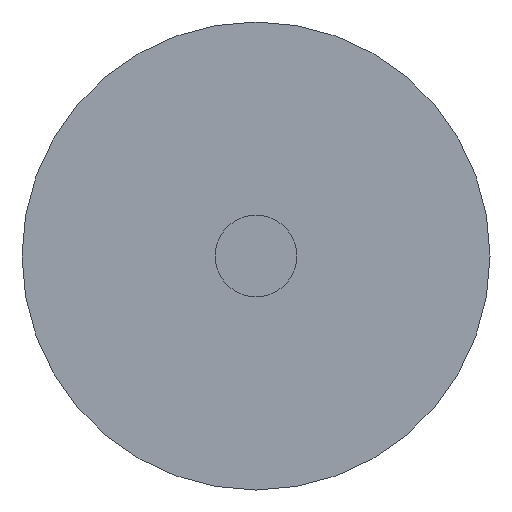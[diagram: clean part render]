
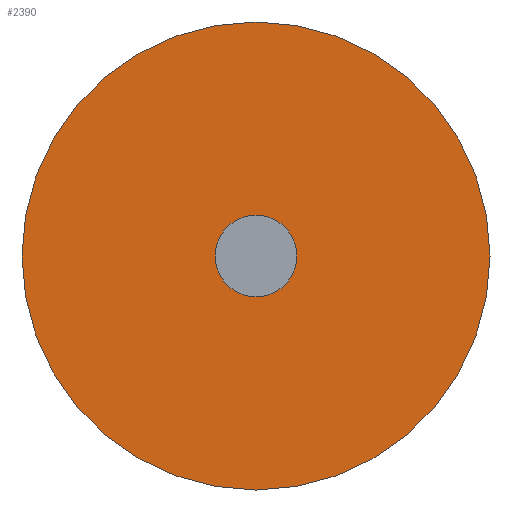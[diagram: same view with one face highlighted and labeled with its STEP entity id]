
A CAD part, left-side view. The second image highlights one B-rep face of the part: STEP entity #2390.
In plain terms, the highlighted planar face has unit normal (-1, 0, 0).
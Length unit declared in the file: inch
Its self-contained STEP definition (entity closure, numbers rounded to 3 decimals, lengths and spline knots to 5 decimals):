
#1 = ORIENTED_EDGE ( 'NONE', *, *, #460, .F. ) ;
#15 = EDGE_CURVE ( 'NONE', #794, #1559, #1183, .T. ) ;
#40 = CARTESIAN_POINT ( 'NONE',  ( 0., 0., 0. ) ) ;
#282 = EDGE_LOOP ( 'NONE', ( #547, #723 ) ) ;
#347 = DIRECTION ( 'NONE',  ( 1., 0., 0. ) ) ;
#354 = DIRECTION ( 'NONE',  ( -1., 0., 0. ) ) ;
#365 = CIRCLE ( 'NONE', #2064, 0.03 ) ;
#387 = DIRECTION ( 'NONE',  ( -1., 0., 0. ) ) ;
#414 = CIRCLE ( 'NONE', #458, 0.17162 ) ;
#458 = AXIS2_PLACEMENT_3D ( 'NONE', #2040, #387, #1127 ) ;
#460 = EDGE_CURVE ( 'NONE', #1559, #794, #365, .T. ) ;
#538 = FACE_OUTER_BOUND ( 'NONE', #282, .T. ) ;
#547 = ORIENTED_EDGE ( 'NONE', *, *, #1429, .T. ) ;
#708 = CARTESIAN_POINT ( 'NONE',  ( 0., 0., 0. ) ) ;
#723 = ORIENTED_EDGE ( 'NONE', *, *, #785, .T. ) ;
#785 = EDGE_CURVE ( 'NONE', #1285, #1458, #2019, .T. ) ;
#792 = DIRECTION ( 'NONE',  ( -1., 0., 0. ) ) ;
#794 = VERTEX_POINT ( 'NONE', #2257 ) ;
#1084 = DIRECTION ( 'NONE',  ( 0., 0., -1. ) ) ;
#1093 = DIRECTION ( 'NONE',  ( 0., 0., 1. ) ) ;
#1127 = DIRECTION ( 'NONE',  ( 0., 0., 1. ) ) ;
#1137 = CARTESIAN_POINT ( 'NONE',  ( 0., 0., 0.17162 ) ) ;
#1176 = CARTESIAN_POINT ( 'NONE',  ( 0., 0., 0.03 ) ) ;
#1183 = CIRCLE ( 'NONE', #2098, 0.03 ) ;
#1269 = PLANE ( 'NONE',  #2340 ) ;
#1285 = VERTEX_POINT ( 'NONE', #1621 ) ;
#1429 = EDGE_CURVE ( 'NONE', #1458, #1285, #414, .T. ) ;
#1437 = DIRECTION ( 'NONE',  ( -1., 0., 0. ) ) ;
#1441 = EDGE_LOOP ( 'NONE', ( #1, #1850 ) ) ;
#1458 = VERTEX_POINT ( 'NONE', #1137 ) ;
#1530 = DIRECTION ( 'NONE',  ( 0., 0., 1. ) ) ;
#1559 = VERTEX_POINT ( 'NONE', #1176 ) ;
#1621 = CARTESIAN_POINT ( 'NONE',  ( 0., 0., -0.17162 ) ) ;
#1850 = ORIENTED_EDGE ( 'NONE', *, *, #15, .F. ) ;
#2002 = CARTESIAN_POINT ( 'NONE',  ( 0., 0., 0. ) ) ;
#2009 = CARTESIAN_POINT ( 'NONE',  ( 0., 0., 0. ) ) ;
#2019 = CIRCLE ( 'NONE', #2254, 0.17162 ) ;
#2040 = CARTESIAN_POINT ( 'NONE',  ( 0., 0., 0. ) ) ;
#2064 = AXIS2_PLACEMENT_3D ( 'NONE', #2009, #354, #1093 ) ;
#2098 = AXIS2_PLACEMENT_3D ( 'NONE', #708, #1437, #2168 ) ;
#2168 = DIRECTION ( 'NONE',  ( 0., 0., 1. ) ) ;
#2182 = FACE_BOUND ( 'NONE', #1441, .T. ) ;
#2254 = AXIS2_PLACEMENT_3D ( 'NONE', #40, #792, #1530 ) ;
#2257 = CARTESIAN_POINT ( 'NONE',  ( 0., 0., -0.03 ) ) ;
#2340 = AXIS2_PLACEMENT_3D ( 'NONE', #2002, #347, #1084 ) ;
#2390 = ADVANCED_FACE ( 'NONE', ( #2182, #538 ), #1269, .F. ) ;
